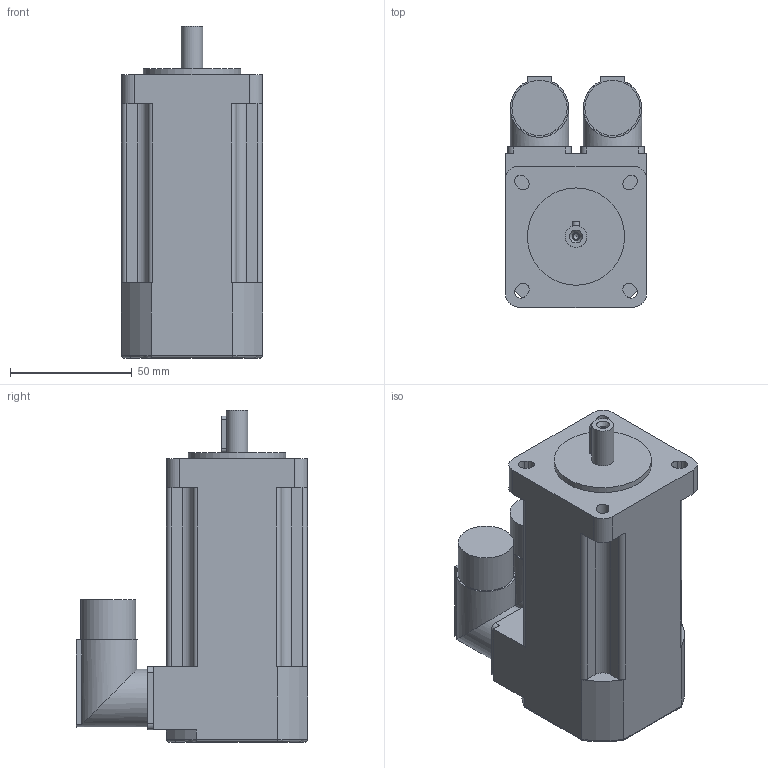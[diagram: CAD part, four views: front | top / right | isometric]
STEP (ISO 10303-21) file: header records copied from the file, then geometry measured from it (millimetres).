
FILE_DESCRIPTION(/* description */ (''),/* implementation_level */ '2;1');
FILE_NAME(/* name */ 'C:\Users\Pastrello_Ylenia\Desktop\Modelli 3D Serad\B28Q\Resolver\Resolver Brake\B28D2Qxx6B052000.stp',/* time_stamp */ '2015-06-10T16:29:56+02:00',/* author */ ('Pastrello_Ylenia'),/* organization */ (''),/* preprocessor_version */ 'ST-DEVELOPER v15.6',/* originating_system */ 'Autodesk Inventor 2015',/* authorisation */ '');
FILE_SCHEMA (('AUTOMOTIVE_DESIGN { 1 0 10303 214 3 1 1 }'));
Length unit declared in the file: millimetre
Products named in the file (1): B28D2Qxx6B052000
Bounding box: 58 x 95 x 136.5 mm (x, y, z)
Volume: 416516.2 mm3; surface area: 44842.9 mm2
Topology: 1 solids, 1 shells, 140 faces, 376 edges, 244 vertices
Faces by surface type: plane 71, cylinder 62, torus 4, cone 3
Full cylindrical faces by diameter (mm): 2.459 x1, 3.2 x1, 9 x1, 22.7 x2, 24 x2, 40 x1
Entity records: 4441 total; most frequent: CARTESIAN_POINT 879, DIRECTION 757, ORIENTED_EDGE 722, EDGE_CURVE 360, AXIS2_PLACEMENT_3D 268, VERTEX_POINT 240, LINE 221, VECTOR 221
